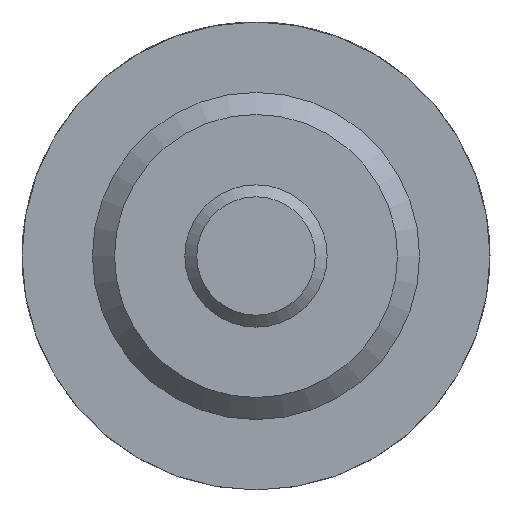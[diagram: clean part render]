
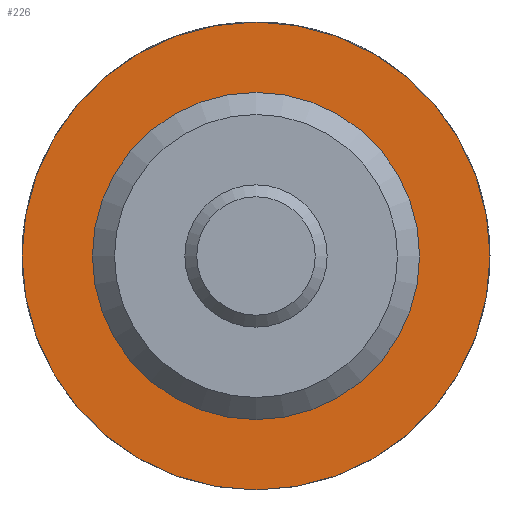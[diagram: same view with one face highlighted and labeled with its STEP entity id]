
A CAD part, left-side view. The second image highlights one B-rep face of the part: STEP entity #226.
In plain terms, the highlighted planar face has unit normal (-1, 0, 0).
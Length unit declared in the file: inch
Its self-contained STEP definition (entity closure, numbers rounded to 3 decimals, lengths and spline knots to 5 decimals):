
#226 = ADVANCED_FACE( '', ( #461, #462 ), #463, .F. );
#461 = FACE_OUTER_BOUND( '', #688, .T. );
#462 = FACE_BOUND( '', #689, .T. );
#463 = PLANE( '', #690 );
#688 = EDGE_LOOP( '', ( #1087 ) );
#689 = EDGE_LOOP( '', ( #1088 ) );
#690 = AXIS2_PLACEMENT_3D( '', #1089, #1090, #1091 );
#1087 = ORIENTED_EDGE( '', *, *, #1230, .F. );
#1088 = ORIENTED_EDGE( '', *, *, #1191, .T. );
#1089 = CARTESIAN_POINT( '', ( 0.375, 0.2185, 0. ) );
#1090 = DIRECTION( '', ( 1., 0., 0. ) );
#1091 = DIRECTION( '', ( 0., 0., -1. ) );
#1191 = EDGE_CURVE( '', #1379, #1379, #1380, .T. );
#1230 = EDGE_CURVE( '', #1438, #1438, #1439, .T. );
#1379 = VERTEX_POINT( '', #1614 );
#1380 = CIRCLE( '', #1615, 0.2185 );
#1438 = VERTEX_POINT( '', #1752 );
#1439 = CIRCLE( '', #1753, 0.3125 );
#1614 = CARTESIAN_POINT( '', ( 0.375, 0., -0.2185 ) );
#1615 = AXIS2_PLACEMENT_3D( '', #2048, #2049, #2050 );
#1752 = CARTESIAN_POINT( '', ( 0.375, 0., -0.3125 ) );
#1753 = AXIS2_PLACEMENT_3D( '', #2094, #2095, #2096 );
#2048 = CARTESIAN_POINT( '', ( 0.375, 0., 0. ) );
#2049 = DIRECTION( '', ( 1., 0., 0. ) );
#2050 = DIRECTION( '', ( 0., 0., -1. ) );
#2094 = CARTESIAN_POINT( '', ( 0.375, 0., 0. ) );
#2095 = DIRECTION( '', ( 1., 0., 0. ) );
#2096 = DIRECTION( '', ( 0., 0., -1. ) );
